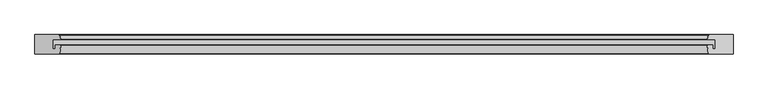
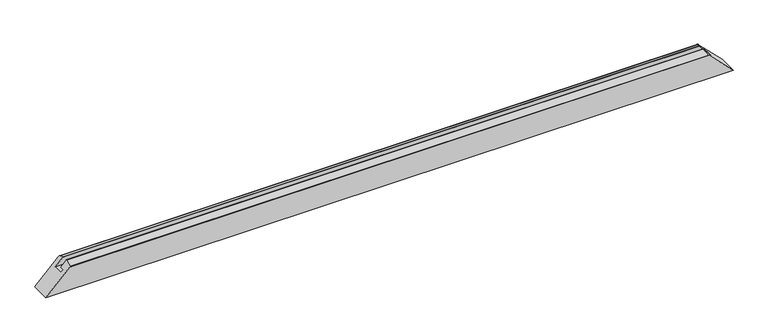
"""IFC4 building model written with IfcOpenShell, lengths in millimetres: proxy geometry, Weiku - Montante - Caixilho fixo 02.2.01.005 : Weiku - Montante - Caixilho fixo 02.2.01.005."""

from ifc_helpers import new_model, si_unit, frame, origin, place, context, project, spatial, ellipse_curve, source, transform, mapped, element, save
from ifc_brep_helpers import plane_surface, cylinder_surface, advanced_brep


def generic_models_a2f8a332(model_context):
    return source(origin(), model_context, "Body", "AdvancedBrep", [
        advanced_brep(
        [(-830.618227, 38.5070552, 66.881773), (-833.1019557, 47.7764571, 64.3980443), (-835.9997332, 50.0, 61.5002668), (-897.5, 50.0, 0.0), (-897.5, 0.0, 0.0), (-835.0355572, 0.0, 62.4644428), (-834.0489094, 0.8371317, 63.4510906), (-830.4998537, 22.3371317, 67.0001463), (-831.4865015, 23.5, 66.0134985), (-845.5009154, 23.5, 51.9990846), (-845.5009154, 12.5, 51.9990846), (-851.5, 12.5, 46.0), (-851.5, 37.5, 46.0), (-831.3909676, 37.5, 66.1090324), (833.1019557, 47.7764571, 64.3980443), (830.618227, 38.5070552, 66.881773), (831.3909676, 37.5, 66.1090324), (851.5, 37.5, 46.0), (851.5, 12.5, 46.0), (845.5009154, 12.5, 51.9990846), (845.5009154, 23.5, 51.9990846), (831.4865015, 23.5, 66.0134985), (830.4998537, 22.3371317, 67.0001463), (834.0489094, 0.8371317, 63.4510906), (835.0355572, 0.0, 62.4644428), (897.5, 0.0, 0.0), (897.5, 50.0, 0.0), (835.9997332, 50.0, 61.5002668)],
        [
            (0, 1),
            (1, 2, ellipse_curve(frame((-835.9997332, 47.0, 61.5002668), z_axis=(-0.7071067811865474, 0.0, 0.7071067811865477), x_axis=(-0.7071067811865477, 0.0, -0.7071067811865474)), 4.2426407, 3.0)),
            (2, 3),
            (3, 4),
            (4, 5),
            (5, 6, ellipse_curve(frame((-835.0355572, 1.0, 62.4644428), z_axis=(-0.7071067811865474, 0.0, 0.7071067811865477), x_axis=(-0.7071067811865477, 0.0, -0.7071067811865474)), 1.4142136, 1.0)),
            (6, 7),
            (7, 8, ellipse_curve(frame((-831.4865015, 22.5, 66.0134985), z_axis=(-0.7071067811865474, 0.0, 0.7071067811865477), x_axis=(-0.7071067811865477, 0.0, -0.7071067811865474)), 1.4142136, 1.0)),
            (8, 9),
            (9, 10),
            (10, 11),
            (11, 12),
            (12, 13),
            (13, 0, ellipse_curve(frame((-831.3909676, 38.3, 66.1090324), z_axis=(-0.7071067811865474, 0.0, 0.7071067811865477), x_axis=(-0.7071067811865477, 0.0, -0.7071067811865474)), 1.1313708, 0.8)),
            (14, 15),
            (15, 16, ellipse_curve(frame((831.3909676, 38.3, 66.1090324), z_axis=(0.7071067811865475, 0.0, 0.7071067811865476), x_axis=(-0.7071067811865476, 0.0, 0.7071067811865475)), 1.1313708, 0.8)),
            (16, 17),
            (17, 18),
            (18, 19),
            (19, 20),
            (20, 21),
            (21, 22, ellipse_curve(frame((831.4865015, 22.5, 66.0134985), z_axis=(0.7071067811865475, 0.0, 0.7071067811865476), x_axis=(-0.7071067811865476, 0.0, 0.7071067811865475)), 1.4142136, 1.0)),
            (22, 23),
            (23, 24, ellipse_curve(frame((835.0355572, 1.0, 62.4644428), z_axis=(0.7071067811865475, 0.0, 0.7071067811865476), x_axis=(-0.7071067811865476, 0.0, 0.7071067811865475)), 1.4142136, 1.0)),
            (24, 25),
            (25, 26),
            (26, 27),
            (27, 14, ellipse_curve(frame((835.9997332, 47.0, 61.5002668), z_axis=(0.7071067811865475, 0.0, 0.7071067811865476), x_axis=(-0.7071067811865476, 0.0, 0.7071067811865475)), 4.2426407, 3.0)),
            (0, 15),
            (14, 1),
            (27, 2),
            (26, 3),
            (25, 4),
            (24, 5),
            (23, 6),
            (22, 7),
            (21, 8),
            (20, 9),
            (19, 10),
            (18, 11),
            (17, 12),
            (16, 13),
        ],
        [
            plane_surface(frame((-967.5, -15.0, -70.0), z_axis=(-0.7071067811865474, 0.0, 0.7071067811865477), x_axis=(0.0, 1.0, 0.0))),
            plane_surface(frame((827.5, -15.0, 70.0), z_axis=(0.7071067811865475, 0.0, 0.7071067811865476), x_axis=(0.0, 1.0, 0.0))),
            plane_surface(frame((-897.5, 38.5070552, 66.881773), z_axis=(0.0, 0.2588190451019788, 0.9659258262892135), x_axis=(1.0, 0.0, 0.0))),
            cylinder_surface(frame((-897.5, 47.0, 61.5002668), z_axis=(-1.0, 0.0, 0.0), x_axis=(0.0, -1.0, 0.0)), 3.0),
            plane_surface(frame((-897.5, 50.0, 61.5002668), z_axis=(0.0, 1.0, 0.0), x_axis=(1.0, 0.0, 0.0))),
            plane_surface(frame((-897.5, 50.0, 0.0), z_axis=(0.0, 0.0, -1.0), x_axis=(1.0, 0.0, 0.0))),
            plane_surface(frame((-897.5, 0.0, 0.0), z_axis=(0.0, -1.0, 0.0), x_axis=(1.0, 0.0, 0.0))),
            cylinder_surface(frame((-897.5, 1.0, 62.4644428), z_axis=(-1.0, 0.0, 0.0), x_axis=(0.0, 1.0, 0.0)), 1.0),
            plane_surface(frame((-897.5, 0.8371317, 63.4510906), z_axis=(0.0, -0.16286828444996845, 0.9866478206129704), x_axis=(1.0, 0.0, 0.0))),
            cylinder_surface(frame((-897.5, 22.5, 66.0134985), z_axis=(-1.0, 0.0, 0.0), x_axis=(0.0, 1.0, 0.0)), 1.0),
            plane_surface(frame((-897.5, 23.5, 66.0134985), z_axis=(0.0, 1.0, 0.0), x_axis=(1.0, 0.0, 0.0))),
            plane_surface(frame((-897.5, 23.5, 51.9990846), z_axis=(0.0, 0.0, -1.0), x_axis=(1.0, 0.0, 0.0))),
            plane_surface(frame((-897.5, 12.5, 51.9990846), z_axis=(0.0, 1.0, 0.0), x_axis=(1.0, 0.0, 0.0))),
            plane_surface(frame((-897.5, 12.5, 46.0), z_axis=(0.0, 0.0, 1.0), x_axis=(1.0, 0.0, 0.0))),
            plane_surface(frame((-897.5, 37.5, 46.0), z_axis=(0.0, -1.0, 0.0), x_axis=(1.0, 0.0, 0.0))),
            cylinder_surface(frame((-897.5, 38.3, 66.1090324), z_axis=(-1.0, 0.0, 0.0), x_axis=(0.0, -1.0, 0.0)), 0.8),
        ],
        [
            (0, [[1, 2, 3, 4, 5, 6, 7, 8, 9, 10, 11, 12, 13, 14]]),
            (1, [[15, 16, 17, 18, 19, 20, 21, 22, 23, 24, 25, 26, 27, 28]]),
            (2, [[-1, 29, -15, 30]]),
            (3, [[-2, -30, -28, 31]]),
            (4, [[32, -3, -31, -27]]),
            (5, [[-32, -26, 33, -4]]),
            (6, [[-33, -25, 34, -5]]),
            (7, [[-6, -34, -24, 35]]),
            (8, [[-7, -35, -23, 36]]),
            (9, [[-8, -36, -22, 37]]),
            (10, [[-9, -37, -21, 38]]),
            (11, [[-10, -38, -20, 39]]),
            (12, [[-11, -39, -19, 40]]),
            (13, [[-12, -40, -18, 41]]),
            (14, [[-13, -41, -17, 42]]),
            (15, [[-14, -42, -16, -29]]),
        ],
    ),
    ])


if __name__ == "__main__":
    model = new_model("IFC4")
    model_context = context("Model", 3, world=origin())
    ifc_project = project(units=[si_unit("LENGTHUNIT", "METRE", prefix="MILLI")], contexts=[model_context])
    site = spatial("IfcSite", under=ifc_project)
    building = spatial("IfcBuilding", under=site)
    placement = place(None, origin())
    generic_models_shape = generic_models_a2f8a332(model_context)
    element("IfcBuildingElementProxy", 1, Name="Weiku - Montante - Caixilho fixo 02.2.01.005 : Weiku - Montante - Caixilho fixo 02.2.01.005", ObjectType="Weiku - Montante - Caixilho fixo 02.2.01.005 : Weiku - Montante - Caixilho fixo 02.2.01.005", at=placement, inside=building, context=model_context, shape_type="MappedRepresentation", body=[
        mapped(generic_models_shape, transform((0.0, 0.0, 0.0), x_axis=(1.0, 0.0, 0.0), y_axis=(0.0, 1.0, 0.0), z_axis=(0.0, 0.0, 1.0))),
    ])
    save(model, "model.ifc")
